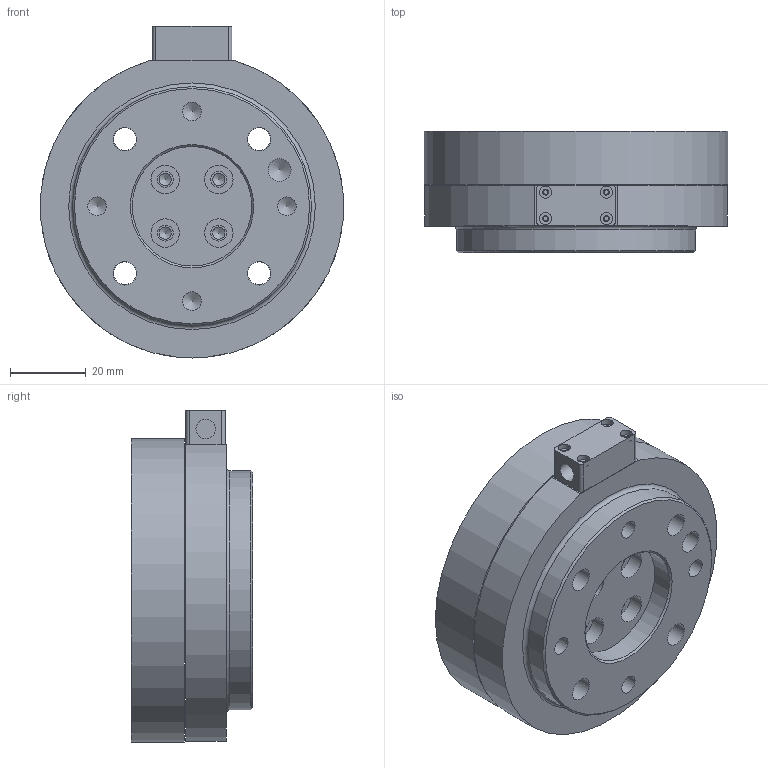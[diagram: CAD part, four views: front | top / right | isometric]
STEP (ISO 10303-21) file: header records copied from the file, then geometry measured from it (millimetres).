
FILE_DESCRIPTION(/* description */ (''),/* implementation_level */ '2;1');
FILE_NAME(/* name */ 'C:\Users\Administrator\Desktop\T521J9总装图.stp',/* time_stamp */ '2024-05-20T13:51:39+08:00',/* author */ ('Administrator'),/* organization */ (''),/* preprocessor_version */ 'ST-DEVELOPER v18',/* originating_system */ 'Autodesk Inventor 2020',/* authorisation */ '');
FILE_SCHEMA (('AUTOMOTIVE_DESIGN { 1 0 10303 214 3 1 1 }'));
Length unit declared in the file: millimetre
Products named in the file (5): T521J9总装图; 零件2; T521J9上盖; T521J9接线盒; T521J9下盖
Assembly tree (4 placements, depth 2):
  T521J9总装图
    零件2
    T521J9上盖
    T521J9接线盒
    T521J9下盖
Bounding box: 80 x 32 x 87.5 mm (x, y, z)
Volume: 129711.4 mm3; surface area: 40844.7 mm2
Topology: 4 solids, 4 shells, 286 faces, 774 edges, 523 vertices
Faces by surface type: cylinder 151, plane 121, cone 13, torus 1
Full cylindrical faces by diameter (mm): 1.221 x4, 1.6 x4, 3 x3, 3.2 x4, 3.242 x4, 4.2 x4, 4.917 x4, 5 x2, 5.1 x1, 6 x5, 6.2 x4, 7.5 x4, 11 x4, 31.5 x1, 32 x1, 63 x1, 80 x1
Entity records: 9478 total; most frequent: DIRECTION 1702, CARTESIAN_POINT 1581, ORIENTED_EDGE 1526, EDGE_CURVE 763, AXIS2_PLACEMENT_3D 644, VERTEX_POINT 523, LINE 414, VECTOR 414
